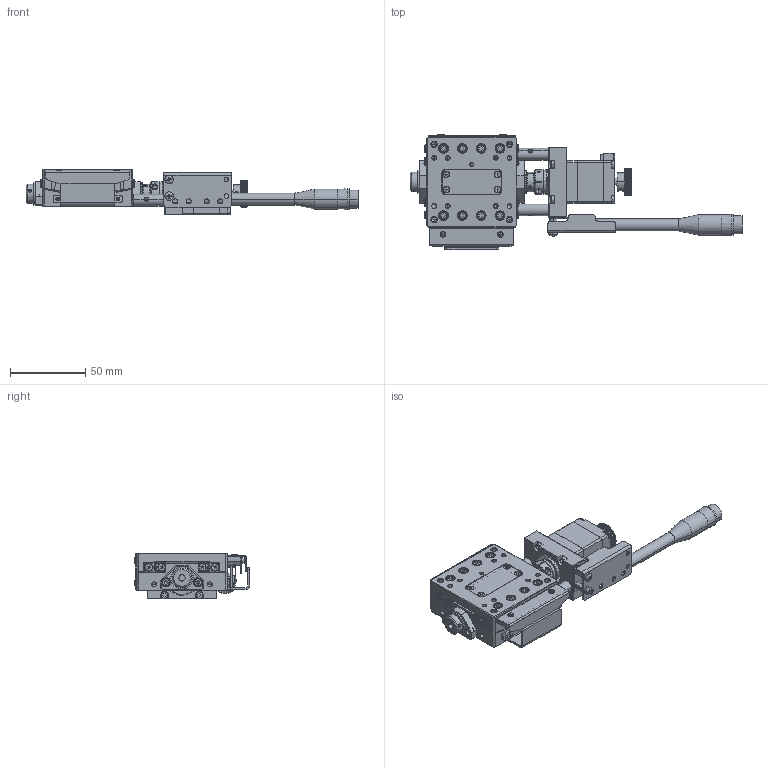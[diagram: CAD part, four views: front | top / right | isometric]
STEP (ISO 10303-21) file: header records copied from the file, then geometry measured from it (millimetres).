
FILE_DESCRIPTION (( 'STEP AP203' ), '1' );
FILE_NAME ('DGB60100-L1PC-R.STEP', '2021-08-21T08:52:20', ( '' ), ( '' ), 'SwSTEP 2.0', 'SolidWorks 2018', '' );
FILE_SCHEMA (( 'CONFIG_CONTROL_DESIGN' ));
Products named in the file (1): DGB60100-L1PC-R
Bounding box: 220.38 x 76.71 x 30.5 mm (x, y, z)
Volume: 127996 mm3; surface area: 69351.8 mm2
Topology: 24 solids, 128 shells, 4024 faces, 10015 edges, 6306 vertices
Faces by surface type: plane 2041, cylinder 1149, cone 376, bspline 210, torus 204, sphere 44
Entity records: 137189 total; most frequent: CARTESIAN_POINT 42626, ORIENTED_EDGE 19538, DIRECTION 19430, EDGE_CURVE 9769, AXIS2_PLACEMENT_3D 6906, VERTEX_POINT 6264, LINE 5618, VECTOR 5618
